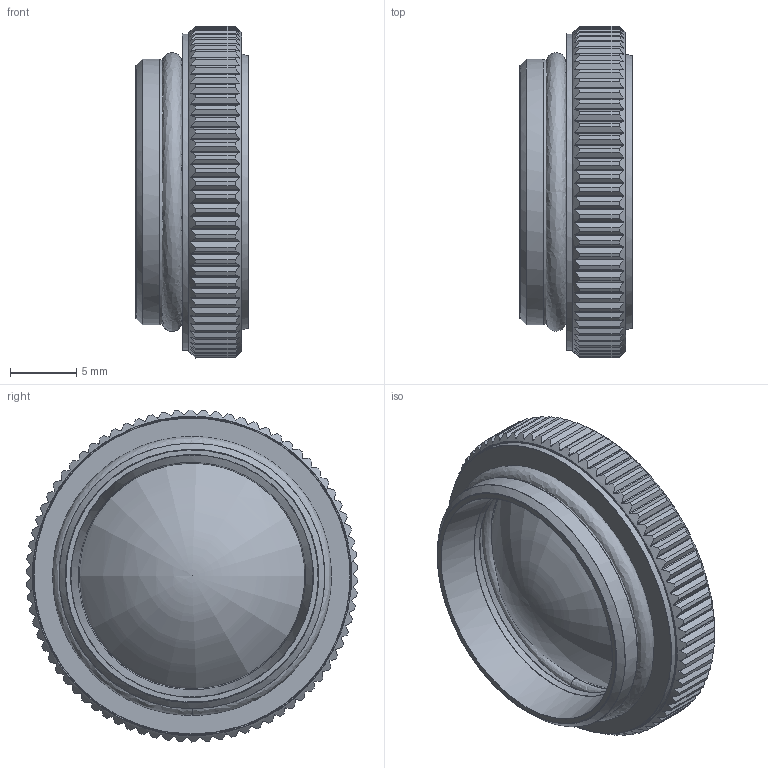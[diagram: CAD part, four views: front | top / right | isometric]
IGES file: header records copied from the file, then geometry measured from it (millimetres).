
Global section: file name: C:\Users\mmoretti\Downloads\Nuova cartella\DSD-1053_95ACC2670 Lens 9 Glass _GOT-0596 Lens X-0150.igs; native system: NX V12.0; preprocessor: SIEMENS PLM Software NX 12.0; date: 20210304.104454; units: millimetre
Bounding box: 8.5 x 25 x 25 mm (x, y, z)
Surface area: 3141 mm2 (no closed solid volume)
Topology: 0 solids, 0 shells, 345 faces, 2134 edges, 2107 vertices
Faces by surface type: bspline 345
